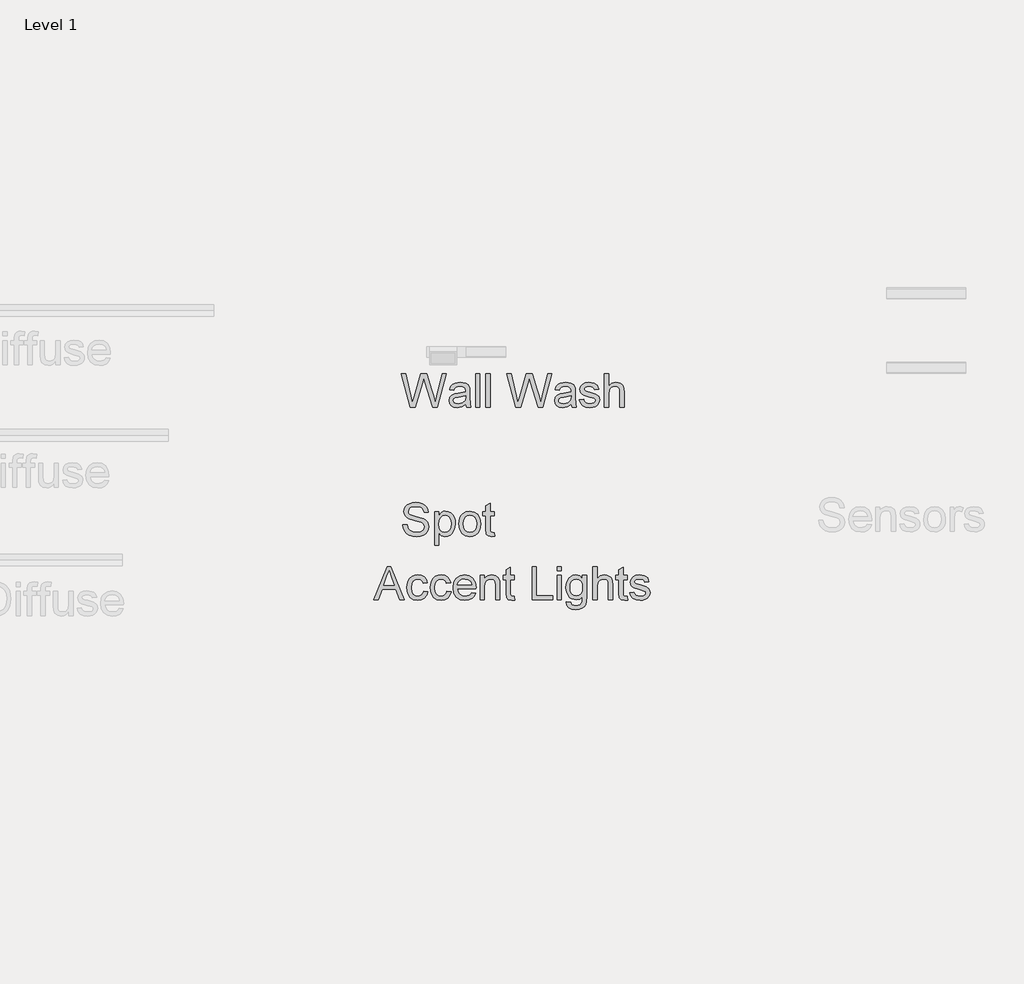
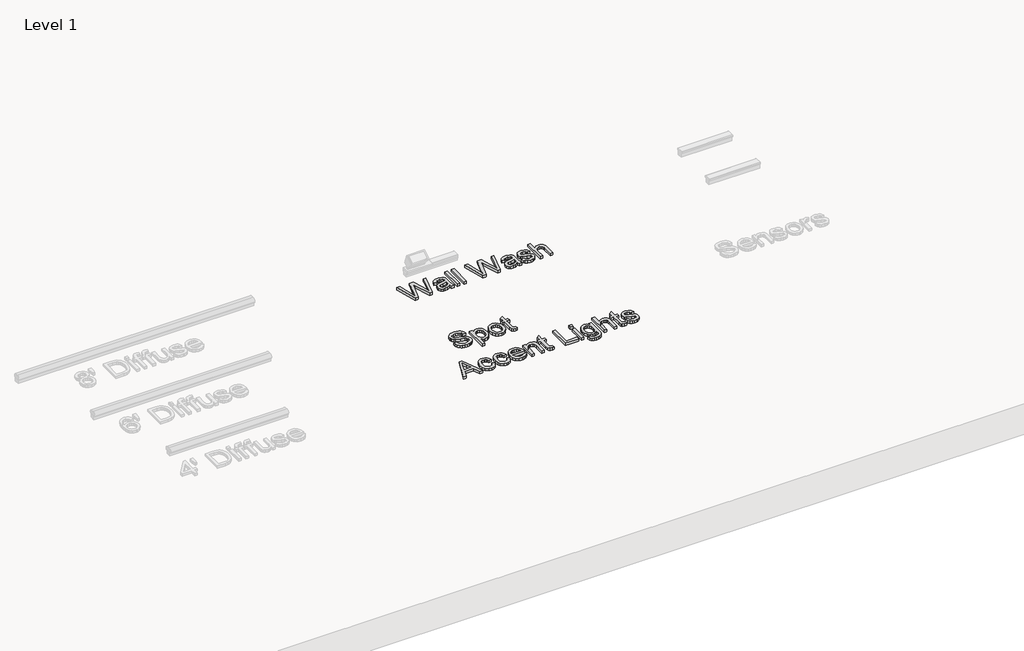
# One storey, part 5 of 9: 3 proxies.
"""IFC4 building model written with IfcOpenShell, lengths in millimetres."""

from ifc_helpers import new_model, si_unit, origin, origin_with_axes, place, context, project, spatial, polyline, outline, extrude, element, save

model = new_model("IFC4")

# Units and contexts
model_context = context("Model", 3, world=origin())
ifc_project = project(units=[si_unit("LENGTHUNIT", "METRE", prefix="MILLI")], contexts=[model_context])

# Site, building, storey
site = spatial("IfcSite", under=ifc_project)
building = spatial("IfcBuilding", under=site)
storey = spatial("IfcBuildingStorey", under=building, Name="Level 1", Elevation=0.0)

# Proxies
placement = place(None, origin())
element("IfcBuildingElementProxy", 1, Name="8\"", ObjectType="8\"", at=placement, inside=storey, context=model_context, shape_type="SweptSolid", body=[
    extrude(outline(polyline([(-1921.9742057, 7187.7990548), (-1977.3455345, 7390.8437842), (-1951.1717998, 7390.8437842), (-1919.0494891, 7257.3973947), (-1909.1351957, 7216.2035055), (-1898.5269017, 7252.6385339), (-1858.2748704, 7390.8437842), (-1820.5509839, 7390.8437842), (-1791.3038183, 7290.6598491), (-1778.77463, 7253.4812488), (-1769.5419443, 7216.2035055), (-1759.9250796, 7256.2076795), (-1727.5053401, 7390.8437842), (-1701.3316055, 7390.8437842), (-1756.7525057, 7187.7990548), (-1783.8680983, 7187.7990548), (-1832.547279, 7344.444891), (-1839.33857, 7366.305908), (-1846.9725759, 7339.9834589), (-1891.339039, 7187.7990548), (-1921.9742057, 7187.7990548)])), origin_with_axes(), (0.0, 0.0, 1.0), 25.4),
    extrude(outline(polyline([(-1583.9463713, 7206.8344982), (-1608.5586047, 7189.6331991), (-1635.7485545, 7184.6264809), (-1656.958946, 7187.6379476), (-1672.6049403, 7196.6723475), (-1682.2527871, 7210.391251), (-1685.468736, 7227.4562286), (-1680.6107322, 7247.5326727), (-1667.8460794, 7262.1066841), (-1650.0747085, 7270.4346906), (-1628.1145485, 7274.2516935), (-1584.0950857, 7282.9762717), (-1583.9463713, 7288.627419), (-1585.6937655, 7299.9544992), (-1590.9359482, 7307.3654336), (-1602.6596002, 7312.8678664), (-1618.9933986, 7314.7020107), (-1634.1126961, 7313.4813133), (-1644.6714186, 7309.8192212), (-1651.8716742, 7303.0465195), (-1656.9155709, 7292.4939934), (-1682.2961621, 7295.6665673), (-1677.890498, 7309.5465781), (-1671.3160821, 7320.4523009), (-1661.9594677, 7328.7927002), (-1649.2072078, 7334.9767408), (-1615.7216817, 7340.0826019), (-1584.9625864, 7335.5715984), (-1567.5877872, 7324.2445181), (-1559.8050668, 7307.0184333), (-1558.5657801, 7284.810416), (-1558.5657801, 7253.2333915), (-1557.276922, 7209.1395714), (-1552.2206324, 7187.7990548), (-1577.6012235, 7187.7990548), (-1583.9463713, 7206.8344982)]), holes=[polyline([(-1583.9463713, 7257.5956806), (-1624.8924032, 7249.8129602), (-1646.7286344, 7245.6985285), (-1656.6181421, 7239.0063804), (-1660.0881448, 7229.2408014), (-1658.1982326, 7221.6935455), (-1652.5284961, 7215.509505), (-1643.2028638, 7211.3826803), (-1630.3452646, 7210.0070721), (-1616.7131111, 7211.5251983), (-1604.6672446, 7216.0795768), (-1588.1103746, 7230.7775168), (-1584.0950857, 7250.4078178), (-1583.9463713, 7257.5956806)])]), origin_with_axes(), (0.0, 0.0, 1.0), 25.4),
    extrude(outline(polyline([(-1523.6674673, 7187.7990548), (-1523.6674673, 7390.8437842), (-1498.2868761, 7390.8437842), (-1498.2868761, 7187.7990548), (-1523.6674673, 7187.7990548)])), origin_with_axes(), (0.0, 0.0, 1.0), 25.4),
    extrude(outline(polyline([(-1460.2159894, 7187.7990548), (-1460.2159894, 7390.8437842), (-1434.8353982, 7390.8437842), (-1434.8353982, 7187.7990548), (-1460.2159894, 7187.7990548)])), origin_with_axes(), (0.0, 0.0, 1.0), 25.4),
    extrude(outline(polyline([(-1277.9417047, 7187.7990548), (-1333.3130335, 7390.8437842), (-1307.1392988, 7390.8437842), (-1275.0169881, 7257.3973947), (-1265.1026947, 7216.2035055), (-1254.4944007, 7252.6385339), (-1214.2423694, 7390.8437842), (-1176.5184829, 7390.8437842), (-1147.2713173, 7290.6598491), (-1134.742129, 7253.4812488), (-1125.5094433, 7216.2035055), (-1115.8925786, 7256.2076795), (-1083.4728391, 7390.8437842), (-1057.2991045, 7390.8437842), (-1112.7200047, 7187.7990548), (-1139.8355973, 7187.7990548), (-1188.514778, 7344.444891), (-1195.306069, 7366.305908), (-1202.9400749, 7339.9834589), (-1247.306538, 7187.7990548), (-1277.9417047, 7187.7990548)])), origin_with_axes(), (0.0, 0.0, 1.0), 25.4),
    extrude(outline(polyline([(-939.9138703, 7206.8344982), (-964.5261037, 7189.6331991), (-991.7160535, 7184.6264809), (-1012.926445, 7187.6379476), (-1028.5724393, 7196.6723475), (-1038.2202861, 7210.391251), (-1041.436235, 7227.4562286), (-1036.5782312, 7247.5326727), (-1023.8135784, 7262.1066841), (-1006.0422075, 7270.4346906), (-984.0820475, 7274.2516935), (-940.0625847, 7282.9762717), (-939.9138703, 7288.627419), (-941.6612645, 7299.9544992), (-946.9034472, 7307.3654336), (-958.6270992, 7312.8678664), (-974.9608976, 7314.7020107), (-990.0801951, 7313.4813133), (-1000.6389176, 7309.8192212), (-1007.8391732, 7303.0465195), (-1012.8830699, 7292.4939934), (-1038.2636611, 7295.6665673), (-1033.857997, 7309.5465781), (-1027.2835811, 7320.4523009), (-1017.9269667, 7328.7927002), (-1005.1747068, 7334.9767408), (-971.6891807, 7340.0826019), (-940.9300854, 7335.5715984), (-923.5552862, 7324.2445181), (-915.7725658, 7307.0184333), (-914.5332791, 7284.810416), (-914.5332791, 7253.2333915), (-913.244421, 7209.1395714), (-908.1881314, 7187.7990548), (-933.5687225, 7187.7990548), (-939.9138703, 7206.8344982)]), holes=[polyline([(-939.9138703, 7257.5956806), (-980.8599022, 7249.8129602), (-1002.6961334, 7245.6985285), (-1012.5856411, 7239.0063804), (-1016.0556438, 7229.2408014), (-1014.1657316, 7221.6935455), (-1008.4959951, 7215.509505), (-999.1703628, 7211.3826803), (-986.3127636, 7210.0070721), (-972.6806101, 7211.5251983), (-960.6347436, 7216.0795768), (-944.0778736, 7230.7775168), (-940.0625847, 7250.4078178), (-939.9138703, 7257.5956806)])]), origin_with_axes(), (0.0, 0.0, 1.0), 25.4),
    extrude(outline(polyline([(-889.152688, 7232.2150894), (-863.7720968, 7235.3876633), (-859.7692008, 7224.531512), (-852.0236591, 7216.5505058), (-840.4859001, 7211.6429305), (-825.1063524, 7210.0070721), (-809.9126978, 7211.506609), (-799.2300466, 7216.0052196), (-792.9096845, 7222.5238676), (-790.8028972, 7230.0835163), (-792.9220774, 7236.5525928), (-799.2796181, 7241.4849538), (-825.4037812, 7248.722388), (-863.6233824, 7261.1400405), (-873.2960149, 7267.3798489), (-880.3041811, 7275.6396946), (-885.9801141, 7296.1127105), (-881.4195391, 7315.0242252), (-868.9771008, 7329.4743079), (-852.8415883, 7336.9843852), (-831.005357, 7340.0826019), (-800.122333, 7335.1006694), (-788.5721812, 7329.2388434), (-780.492032, 7321.6172304), (-771.7674538, 7298.8391412), (-797.148045, 7295.6665673), (-800.351601, 7303.65377), (-806.6905524, 7309.6705068), (-829.0224983, 7314.7020107), (-843.5965097, 7313.4999026), (-853.3125172, 7309.8935784), (-858.7777715, 7304.6885743), (-860.5995229, 7298.6904268), (-857.5756634, 7291.3042782), (-848.1075132, 7285.7027024), (-826.2464962, 7280.2994125), (-788.9935386, 7268.3526889), (-771.6930966, 7254.8196784), (-766.9900037, 7244.8682064), (-765.422306, 7232.7603755), (-767.2626467, 7220.2435801), (-772.7836689, 7208.4703566), (-781.7746937, 7198.3639738), (-794.0250425, 7190.8477001), (-808.8221255, 7186.1817857), (-825.4533527, 7184.6264809), (-851.0446226, 7187.6255547), (-869.7206729, 7196.622776), (-882.1878968, 7211.5190019), (-889.152688, 7232.2150894)])), origin_with_axes(), (0.0, 0.0, 1.0), 25.4),
    extrude(outline(polyline([(-736.8691409, 7187.7990548), (-736.8691409, 7390.8437842), (-711.4885498, 7390.8437842), (-711.4885498, 7316.1891547), (-691.6971415, 7334.1092401), (-667.3203725, 7340.0826019), (-651.9903963, 7338.4529399), (-638.8167789, 7333.563954), (-628.4439495, 7325.7998229), (-621.5163369, 7315.5447256), (-617.6125839, 7301.4540361), (-616.3113329, 7282.1831283), (-616.3113329, 7187.7990548), (-641.691924, 7187.7990548), (-641.691924, 7279.5558405), (-643.7119613, 7295.4434957), (-649.7720732, 7306.3244328), (-659.5376522, 7312.6076162), (-672.674091, 7314.7020107), (-693.4693215, 7309.0508635), (-701.8097208, 7302.395894), (-707.3493323, 7293.7332801), (-711.4885498, 7267.0142593), (-711.4885498, 7187.7990548), (-736.8691409, 7187.7990548)])), origin_with_axes(), (0.0, 0.0, 1.0), 25.4),
])
element("IfcBuildingElementProxy", 2, Name="8\"", ObjectType="8\"", at=placement, inside=storey, context=model_context, shape_type="SweptSolid", body=[
    extrude(outline(polyline([(-2144.1492404, 6011.015215), (-2063.0998916, 6214.0599444), (-2041.4867319, 6214.0599444), (-1960.4373832, 6011.015215), (-1987.2555469, 6011.015215), (-2010.504565, 6074.4666929), (-2094.13163, 6074.4666929), (-2117.3310767, 6011.015215), (-2144.1492404, 6011.015215)]), holes=[polyline([(-2084.8121942, 6099.8472841), (-2019.7744293, 6099.8472841), (-2038.0663007, 6149.7657515), (-2052.2933118, 6188.6793532), (-2064.9340359, 6154.1280406), (-2084.8121942, 6099.8472841)])]), origin_with_axes(), (0.0, 0.0, 1.0), 25.4),
    extrude(outline(polyline([(-1841.3171477, 6064.9489712), (-1815.9365565, 6061.7763973), (-1823.0128834, 6039.2027905), (-1836.3104295, 6022.1440094), (-1854.5775151, 6011.4179832), (-1876.5624608, 6007.8426411), (-1903.5603211, 6012.83077), (-1924.6715696, 6027.7951566), (-1938.2975267, 6052.0789791), (-1942.8395123, 6085.0254154), (-1940.9000287, 6107.6114151), (-1935.0815777, 6127.1859482), (-1925.291213, 6142.9930498), (-1911.4359879, 6154.276755), (-1894.8605286, 6161.0432603), (-1876.9094611, 6163.298762), (-1855.4636051, 6160.2005453), (-1838.3180739, 6150.9058952), (-1826.0181536, 6135.9105264), (-1819.1091304, 6115.7101536), (-1844.4897215, 6112.5375797), (-1849.0936716, 6123.6106061), (-1856.262945, 6131.5482373), (-1865.6009701, 6136.3256875), (-1876.7111752, 6137.9181708), (-1893.1131344, 6134.7827756), (-1906.1318409, 6125.3765897), (-1914.6271511, 6109.1915056), (-1917.4589212, 6085.719416), (-1914.6891154, 6061.9313082), (-1906.3796983, 6045.6904562), (-1893.5964562, 6036.3400383), (-1877.4051757, 6033.2232323), (-1864.2625405, 6035.1689123), (-1853.4869428, 6041.0059526), (-1845.6484546, 6050.8830674), (-1841.3171477, 6064.9489712)])), origin_with_axes(), (0.0, 0.0, 1.0), 25.4),
    extrude(outline(polyline([(-1698.5513223, 6064.9489712), (-1673.1707311, 6061.7763973), (-1680.2470581, 6039.2027905), (-1693.5446041, 6022.1440094), (-1711.8116898, 6011.4179832), (-1733.7966354, 6007.8426411), (-1760.7944957, 6012.83077), (-1781.9057443, 6027.7951566), (-1795.5317013, 6052.0789791), (-1800.073687, 6085.0254154), (-1798.1342033, 6107.6114151), (-1792.3157524, 6127.1859482), (-1782.5253876, 6142.9930498), (-1768.6701626, 6154.276755), (-1752.0947032, 6161.0432603), (-1734.1436357, 6163.298762), (-1712.6977797, 6160.2005453), (-1695.5522485, 6150.9058952), (-1683.2523283, 6135.9105264), (-1676.343305, 6115.7101536), (-1701.7238962, 6112.5375797), (-1706.3278462, 6123.6106061), (-1713.4971196, 6131.5482373), (-1722.8351448, 6136.3256875), (-1733.9453498, 6137.9181708), (-1750.347309, 6134.7827756), (-1763.3660156, 6125.3765897), (-1771.8613258, 6109.1915056), (-1774.6930958, 6085.719416), (-1771.9232901, 6061.9313082), (-1763.6138729, 6045.6904562), (-1750.8306308, 6036.3400383), (-1734.6393504, 6033.2232323), (-1721.4967152, 6035.1689123), (-1710.7211175, 6041.0059526), (-1702.8826292, 6050.8830674), (-1698.5513223, 6064.9489712)])), origin_with_axes(), (0.0, 0.0, 1.0), 25.4),
    extrude(outline(polyline([(-1546.5652041, 6055.4312495), (-1521.6803276, 6052.2586756), (-1530.6465667, 6033.5082682), (-1544.9541314, 6019.4919359), (-1564.2808071, 6010.7549648), (-1588.3043794, 6007.8426411), (-1618.0844383, 6012.8679486), (-1640.998849, 6027.943871), (-1655.6100389, 6052.0913719), (-1660.4804355, 6084.3314149), (-1655.5604674, 6117.6558337), (-1649.4105073, 6131.1671567), (-1640.8005631, 6142.5778888), (-1618.1959741, 6158.1185437), (-1589.7419519, 6163.298762), (-1562.1740198, 6158.1309366), (-1540.1456991, 6142.6274602), (-1525.7018128, 6117.7549766), (-1520.8871841, 6084.4801293), (-1521.0358985, 6077.6392668), (-1635.0998444, 6077.6392668), (-1630.7065731, 6058.641002), (-1620.5010473, 6044.6742412), (-1605.7721251, 6036.0859845), (-1587.8086647, 6033.2232323), (-1562.9237882, 6038.5273792), (-1553.6787096, 6045.4054203), (-1546.5652041, 6055.4312495)]), holes=[polyline([(-1635.0998444, 6103.019858), (-1546.2677753, 6103.019858), (-1549.7005994, 6116.4289398), (-1556.429926, 6126.0210187), (-1571.227009, 6134.9438828), (-1589.8410949, 6137.9181708), (-1606.9494475, 6135.5449369), (-1621.0959049, 6128.4252349), (-1630.9296447, 6117.3274227), (-1635.0998444, 6103.019858)])]), origin_with_axes(), (0.0, 0.0, 1.0), 25.4),
    extrude(outline(polyline([(-1495.5065929, 6011.015215), (-1495.5065929, 6160.1261881), (-1470.1260018, 6160.1261881), (-1470.1260018, 6139.3061719), (-1461.308477, 6149.8029301), (-1450.7187724, 6157.3006145), (-1438.3568878, 6161.7992251), (-1424.2228232, 6163.298762), (-1400.2550188, 6158.465544), (-1383.8964347, 6145.7752484), (-1376.2872145, 6127.111591), (-1374.9487849, 6102.5737148), (-1374.9487849, 6011.015215), (-1400.329376, 6011.015215), (-1400.329376, 6099.1532836), (-1403.2540926, 6121.6091582), (-1413.5897435, 6133.4815245), (-1431.0141142, 6137.9181708), (-1445.8793579, 6135.4272046), (-1458.5510642, 6127.954306), (-1467.2322674, 6113.5166162), (-1470.1260018, 6090.1312765), (-1470.1260018, 6011.015215), (-1495.5065929, 6011.015215)])), origin_with_axes(), (0.0, 0.0, 1.0), 25.4),
    extrude(outline(polyline([(-1286.1167158, 6032.1822315), (-1282.9441419, 6010.271643), (-1301.9300138, 6007.8426411), (-1323.1961732, 6012.0562158), (-1333.8044671, 6023.110653), (-1336.8778981, 6051.9116754), (-1336.8778981, 6134.745597), (-1355.9133415, 6134.745597), (-1355.9133415, 6160.1261881), (-1336.8778981, 6160.1261881), (-1336.8778981, 6196.3629306), (-1311.4973069, 6211.2839422), (-1311.4973069, 6160.1261881), (-1286.1167158, 6160.1261881), (-1286.1167158, 6134.745597), (-1311.4973069, 6134.745597), (-1311.4973069, 6052.6552474), (-1310.1588773, 6039.5683801), (-1305.8213739, 6034.9334479), (-1297.1711529, 6033.2232323), (-1286.1167158, 6032.1822315)])), origin_with_axes(), (0.0, 0.0, 1.0), 25.4),
    extrude(outline(polyline([(-1178.2492033, 6011.015215), (-1178.2492033, 6214.0599444), (-1152.8686121, 6214.0599444), (-1152.8686121, 6036.3958062), (-1051.3462474, 6036.3958062), (-1051.3462474, 6011.015215), (-1178.2492033, 6011.015215)])), origin_with_axes(), (0.0, 0.0, 1.0), 25.4),
    extrude(outline(polyline([(-1025.9656562, 6188.6793532), (-1025.9656562, 6214.0599444), (-1000.5850651, 6214.0599444), (-1000.5850651, 6188.6793532), (-1025.9656562, 6188.6793532)])), origin_with_axes(), (0.0, 0.0, 1.0), 25.4),
    extrude(outline(polyline([(-1025.9656562, 6011.015215), (-1025.9656562, 6160.1261881), (-1000.5850651, 6160.1261881), (-1000.5850651, 6011.015215), (-1025.9656562, 6011.015215)])), origin_with_axes(), (0.0, 0.0, 1.0), 25.4),
    extrude(outline(polyline([(-968.8593261, 5998.3249194), (-943.4787349, 5995.1523455), (-940.677947, 5987.2209108), (-935.2498714, 5981.7680494), (-924.5796131, 5977.5296889), (-910.6128522, 5976.1169021), (-895.7166263, 5977.7155819), (-884.6374034, 5982.5116214), (-876.953826, 5990.1951988), (-872.2445367, 6000.4564925), (-870.5095353, 6030.0506584), (-888.3800492, 6015.7740758), (-910.166709, 6011.015215), (-936.3342472, 6016.5548264), (-946.9224028, 6023.4793408), (-955.846816, 6033.1736608), (-967.985629, 6057.5380369), (-972.0319, 6086.3142736), (-970.216345, 6106.8058788), (-964.7696801, 6125.6492327), (-955.8839946, 6141.6174416), (-943.751378, 6153.4836115), (-928.7869914, 6160.8449744), (-911.4059957, 6163.298762), (-888.7642281, 6157.7467577), (-870.5095353, 6141.0907447), (-870.5095353, 6160.1261881), (-845.1289441, 6160.1261881), (-845.1289441, 6031.389088), (-846.8639455, 6001.664797), (-852.0689495, 5982.0902639), (-861.0351887, 5969.108736), (-874.0538952, 5959.1634604), (-890.8400333, 5952.8430983), (-911.1085669, 5950.736311), (-934.7231745, 5953.7044025), (-953.3186712, 5962.6086773), (-965.2468054, 5977.473921), (-968.8593261, 5998.3249194)]), holes=[polyline([(-946.6513088, 6088.0492749), (-943.9434674, 6064.7692747), (-935.8199433, 6048.7638872), (-923.606773, 6039.4878264), (-908.6299935, 6036.3958062), (-893.7647498, 6039.4692371), (-881.4896153, 6048.68953), (-873.2545553, 6064.4904352), (-870.5095353, 6087.3057029), (-873.3351089, 6109.3092379), (-881.8118298, 6125.1535181), (-894.2666609, 6134.7270077), (-909.0265653, 6137.9181708), (-923.520023, 6134.7765791), (-935.6712289, 6125.3518039), (-943.9062888, 6109.7429882), (-946.6513088, 6088.0492749)])]), origin_with_axes(), (0.0, 0.0, 1.0), 25.4),
    extrude(outline(polyline([(-807.0580574, 6011.015215), (-807.0580574, 6214.0599444), (-781.6774662, 6214.0599444), (-781.6774662, 6139.4053149), (-761.886058, 6157.3254002), (-737.509289, 6163.298762), (-722.1793128, 6161.6691), (-709.0056954, 6156.7801141), (-698.6328659, 6149.0159831), (-691.7052534, 6138.7608858), (-687.8015003, 6124.6701963), (-686.5002493, 6105.3992884), (-686.5002493, 6011.015215), (-711.8808405, 6011.015215), (-711.8808405, 6102.7720007), (-713.9008778, 6118.6596559), (-719.9609896, 6129.5405929), (-729.7265686, 6135.8237764), (-742.8630074, 6137.9181708), (-763.6582379, 6132.2670236), (-771.9986372, 6125.6120541), (-777.5382487, 6116.9494403), (-781.6774662, 6090.2304195), (-781.6774662, 6011.015215), (-807.0580574, 6011.015215)])), origin_with_axes(), (0.0, 0.0, 1.0), 25.4),
    extrude(outline(polyline([(-597.6681802, 6032.1822315), (-594.4956063, 6010.271643), (-613.4814782, 6007.8426411), (-634.7476376, 6012.0562158), (-645.3559316, 6023.110653), (-648.4293626, 6051.9116754), (-648.4293626, 6134.745597), (-667.4648059, 6134.745597), (-667.4648059, 6160.1261881), (-648.4293626, 6160.1261881), (-648.4293626, 6196.3629306), (-623.0487714, 6211.2839422), (-623.0487714, 6160.1261881), (-597.6681802, 6160.1261881), (-597.6681802, 6134.745597), (-623.0487714, 6134.745597), (-623.0487714, 6052.6552474), (-621.7103418, 6039.5683801), (-617.3728384, 6034.9334479), (-608.7226174, 6033.2232323), (-597.6681802, 6032.1822315)])), origin_with_axes(), (0.0, 0.0, 1.0), 25.4),
    extrude(outline(polyline([(-581.8053107, 6055.4312495), (-556.4247196, 6058.6038234), (-552.4218236, 6047.7476721), (-544.6762818, 6039.7666659), (-533.1385229, 6034.8590907), (-517.7589752, 6033.2232323), (-502.5653205, 6034.7227691), (-491.8826693, 6039.2213798), (-485.5623073, 6045.7400277), (-483.4555199, 6053.2996765), (-485.5747001, 6059.7687529), (-491.9322408, 6064.7011139), (-518.056404, 6071.9385481), (-556.2760051, 6084.3562006), (-565.9486377, 6090.596009), (-572.9568038, 6098.8558547), (-578.6327368, 6119.3288707), (-574.0721618, 6138.2403854), (-561.6297236, 6152.6904681), (-545.494211, 6160.2005453), (-523.6579798, 6163.298762), (-492.7749558, 6158.3168296), (-481.2248039, 6152.4550036), (-473.1446548, 6144.8333905), (-464.4200766, 6122.0553014), (-489.8006677, 6118.8827275), (-493.0042238, 6126.8699301), (-499.3431751, 6132.8866669), (-521.6751211, 6137.9181708), (-536.2491324, 6136.7160628), (-545.96514, 6133.1097385), (-551.4303942, 6127.9047345), (-553.2521457, 6121.906587), (-550.2282862, 6114.5204384), (-540.7601359, 6108.9188626), (-518.8991189, 6103.5155727), (-481.6461614, 6091.5688491), (-464.3457193, 6078.0358386), (-459.6426264, 6068.0843665), (-458.0749288, 6055.9765357), (-459.9152695, 6043.4597402), (-465.4362916, 6031.6865168), (-474.4273165, 6021.5801339), (-486.6776653, 6014.0638602), (-501.4747482, 6009.3979459), (-518.1059755, 6007.8426411), (-543.6972454, 6010.8417149), (-562.3732956, 6019.8389361), (-574.8405196, 6034.735162), (-581.8053107, 6055.4312495)])), origin_with_axes(), (0.0, 0.0, 1.0), 25.4),
])
element("IfcBuildingElementProxy", 3, Name="8\"", ObjectType="8\"", at=placement, inside=storey, context=model_context, shape_type="SweptSolid", body=[
    extrude(outline(polyline([(-1967.8278128, 6470.1956806), (-1942.4472216, 6470.1956806), (-1934.2679295, 6444.7903037), (-1926.0514589, 6435.8054752), (-1914.2906283, 6428.7291483), (-1899.9149028, 6424.1375912), (-1883.8537475, 6422.6070721), (-1857.3330126, 6427.2420043), (-1840.2060707, 6439.9818714), (-1834.5797091, 6457.0096703), (-1838.7932838, 6472.8477541), (-1845.2127888, 6479.1123482), (-1856.0441544, 6484.3731202), (-1892.9996832, 6494.064342), (-1932.7807855, 6506.5811374), (-1945.4153132, 6515.1198227), (-1954.3691595, 6525.4678664), (-1959.7042886, 6537.4021971), (-1961.482665, 6550.6997432), (-1959.2829312, 6565.5649869), (-1952.6837296, 6579.4264084), (-1941.8585605, 6591.1748461), (-1926.9809239, 6599.7011385), (-1909.1228028, 6604.8875532), (-1889.3561803, 6606.6163581), (-1867.9413065, 6604.8069996), (-1849.2032919, 6599.3789239), (-1833.8113514, 6590.443667), (-1822.4346997, 6578.1127645), (-1815.2344441, 6563.1545743), (-1812.3716919, 6546.3374541), (-1837.752283, 6546.3374541), (-1842.4120009, 6561.4815373), (-1852.1280085, 6572.4120458), (-1867.3092703, 6579.0298367), (-1888.364751, 6581.2357669), (-1909.9159463, 6579.0546224), (-1924.7006364, 6572.5111887), (-1933.2517145, 6562.8819312), (-1936.1020738, 6551.4433152), (-1934.0820365, 6541.690129), (-1928.0219247, 6533.8454444), (-1913.6957707, 6526.8310818), (-1886.5801782, 6519.6680048), (-1841.6684289, 6506.9281377), (-1827.199757, 6497.7202377), (-1817.105767, 6486.3559789), (-1811.1757802, 6472.9592899), (-1809.199118, 6457.6540994), (-1811.473209, 6442.0081051), (-1818.2954822, 6427.2915758), (-1829.387098, 6414.6260659), (-1844.4692168, 6405.13313), (-1862.6061774, 6399.2031432), (-1882.8623181, 6397.2264809), (-1907.7286053, 6399.358054), (-1928.1954248, 6405.7527733), (-1944.4982411, 6416.4354245), (-1956.8725186, 6431.4307933), (-1964.8163462, 6449.6978789), (-1967.8278128, 6470.1956806)])), origin_with_axes(), (0.0, 0.0, 1.0), 25.4),
    extrude(outline(polyline([(-1774.3008051, 6343.2927247), (-1774.3008051, 6549.510028), (-1748.9202139, 6549.510028), (-1748.9202139, 6524.6251515), (-1731.3719146, 6545.6682393), (-1720.5653347, 6550.9290112), (-1707.6767533, 6552.6826019), (-1690.5126328, 6550.2288143), (-1675.5048711, 6542.8674514), (-1663.2855045, 6531.0446565), (-1654.486569, 6515.2065727), (-1649.1700292, 6496.5057368), (-1647.3978492, 6476.0946852), (-1649.3992972, 6454.388579), (-1655.4036412, 6434.9751532), (-1665.2187917, 6418.8396406), (-1678.6526593, 6406.9672742), (-1694.2986536, 6399.6616793), (-1710.7501842, 6397.2264809), (-1722.4180683, 6398.8561429), (-1732.8342729, 6403.7451289), (-1748.9202139, 6420.2276417), (-1748.9202139, 6343.2927247), (-1774.3008051, 6343.2927247)]), holes=[polyline([(-1748.9202139, 6473.7648262), (-1746.1751939, 6451.0115228), (-1737.940134, 6435.0990818), (-1725.7889281, 6425.7300746), (-1711.2954704, 6422.6070721), (-1696.5665482, 6425.8416104), (-1684.1055207, 6435.545225), (-1675.6102105, 6452.0401307), (-1672.7784404, 6475.648542), (-1675.5420497, 6498.2779167), (-1683.8328776, 6514.4134293), (-1695.9654942, 6524.0798653), (-1710.2544696, 6527.3020107), (-1724.5992129, 6523.875383), (-1737.196562, 6513.5955), (-1745.9893009, 6496.7845763), (-1748.9202139, 6473.7648262)])]), origin_with_axes(), (0.0, 0.0, 1.0), 25.4),
    extrude(outline(polyline([(-1625.189832, 6474.9545414), (-1619.699792, 6510.906248), (-1612.837242, 6524.876107), (-1603.229672, 6536.1753033), (-1582.8805848, 6548.5557772), (-1558.5162087, 6552.6826019), (-1531.8529558, 6547.6572944), (-1510.5558142, 6532.581372), (-1496.5952498, 6508.6445498), (-1491.9417283, 6477.036543), (-1493.9989442, 6451.3957017), (-1500.1705919, 6431.8769365), (-1510.2769747, 6417.2595501), (-1524.1383962, 6406.3228452), (-1540.6023197, 6399.500572), (-1558.5162087, 6397.2264809), (-1585.5016761, 6402.2331991), (-1606.7740319, 6417.2533537), (-1620.585882, 6441.692087), (-1625.189832, 6474.9545414)]), holes=[polyline([(-1599.8092408, 6475.0041129), (-1596.8721314, 6452.0339343), (-1588.0608031, 6435.6691537), (-1574.8004356, 6425.8725925), (-1558.5162087, 6422.6070721), (-1542.3063389, 6425.8911818), (-1529.0707572, 6435.7435109), (-1520.2594289, 6452.3251667), (-1517.3223195, 6475.7972564), (-1520.2780182, 6498.0982201), (-1529.1451144, 6514.2399291), (-1542.3992854, 6524.0364903), (-1558.5162087, 6527.3020107), (-1574.8004356, 6524.0488832), (-1588.0608031, 6514.2895006), (-1596.8721314, 6497.9618986), (-1599.8092408, 6475.0041129)])]), origin_with_axes(), (0.0, 0.0, 1.0), 25.4),
    extrude(outline(polyline([(-1409.454807, 6421.5660713), (-1406.2822331, 6399.6554828), (-1425.268105, 6397.2264809), (-1446.5342644, 6401.4400557), (-1457.1425584, 6412.4944928), (-1460.2159894, 6441.2955152), (-1460.2159894, 6524.1294368), (-1479.2514327, 6524.1294368), (-1479.2514327, 6549.510028), (-1460.2159894, 6549.510028), (-1460.2159894, 6585.7467705), (-1434.8353982, 6600.6677821), (-1434.8353982, 6549.510028), (-1409.454807, 6549.510028), (-1409.454807, 6524.1294368), (-1434.8353982, 6524.1294368), (-1434.8353982, 6442.0390872), (-1433.4969686, 6428.9522199), (-1429.1594652, 6424.3172877), (-1420.5092442, 6422.6070721), (-1409.454807, 6421.5660713)])), origin_with_axes(), (0.0, 0.0, 1.0), 25.4),
])

save(model, "model.ifc")
